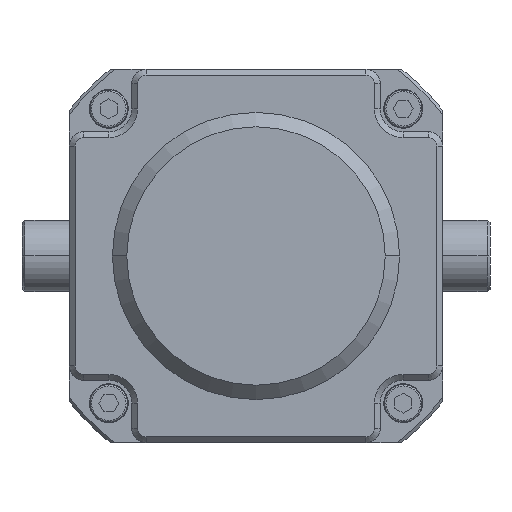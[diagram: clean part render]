
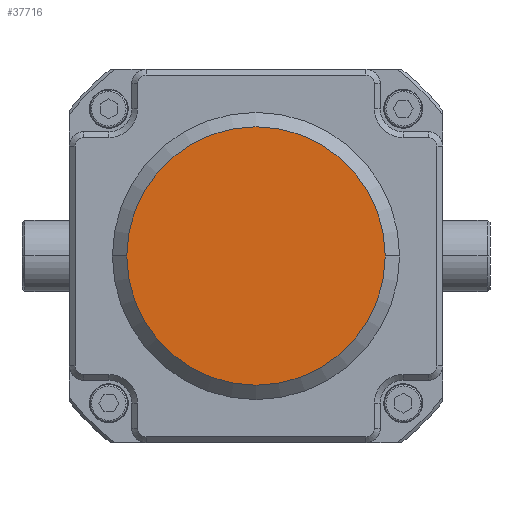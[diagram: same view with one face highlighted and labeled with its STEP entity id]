
A CAD part, front view. The second image highlights one B-rep face of the part: STEP entity #37716.
In plain terms, the highlighted planar face has unit normal (0, -1, 0) as drawn and (0, 1, 0) by its records, which use the part's own axes.
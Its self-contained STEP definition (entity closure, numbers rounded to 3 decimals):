
#35637=CARTESIAN_POINT('',(0.,166.,0.));
#35638=DIRECTION('',(0.,1.,0.));
#35639=DIRECTION('',(-1.,0.,0.));
#35640=AXIS2_PLACEMENT_3D('',#35637,#35638,#35639);
#35642=CARTESIAN_POINT('',(0.,166.,0.));
#35643=DIRECTION('',(0.,1.,0.));
#35644=DIRECTION('',(1.,0.,0.));
#35645=AXIS2_PLACEMENT_3D('',#35642,#35643,#35644);
#36262=CARTESIAN_POINT('',(-45.,166.,0.));
#36263=CARTESIAN_POINT('',(45.,166.,0.));
#36264=VERTEX_POINT('',#36262);
#36265=VERTEX_POINT('',#36263);
#37706=CARTESIAN_POINT('',(0.,166.,0.));
#37707=DIRECTION('',(0.,1.,0.));
#37708=DIRECTION('',(1.,0.,0.));
#37709=AXIS2_PLACEMENT_3D('',#37706,#37707,#37708);
#37710=PLANE('',#37709);
#37712=ORIENTED_EDGE('',*,*,#37711,.F.);
#37713=ORIENTED_EDGE('',*,*,#37696,.F.);
#37714=EDGE_LOOP('',(#37712,#37713));
#37715=FACE_OUTER_BOUND('',#37714,.F.);
#37716=ADVANCED_FACE('',(#37715),#37710,.T.);
#35641=CIRCLE('',#35640,45.);
#35646=CIRCLE('',#35645,45.);
#37696=EDGE_CURVE('',#36265,#36264,#35646,.T.);
#37711=EDGE_CURVE('',#36264,#36265,#35641,.T.);
